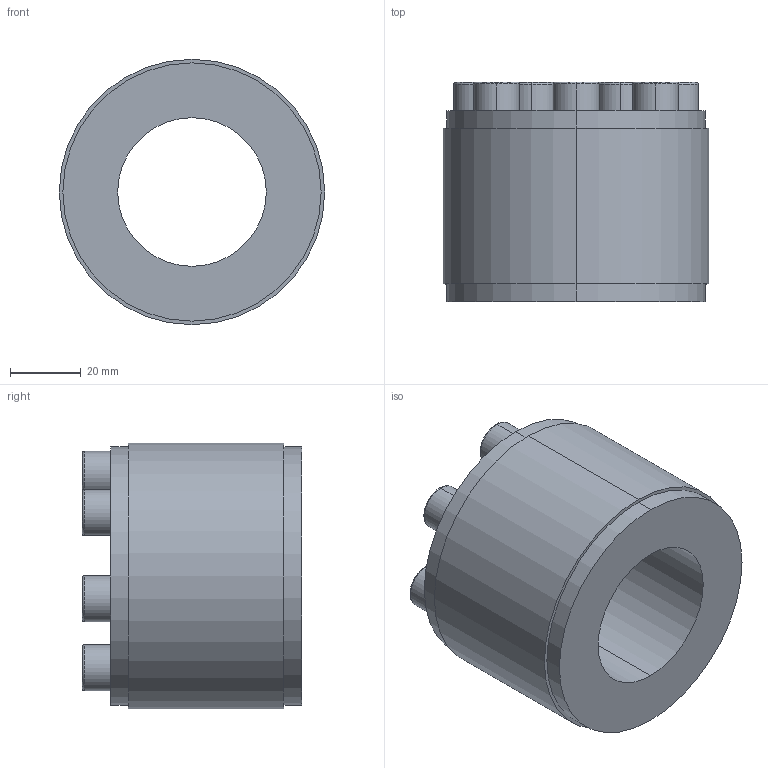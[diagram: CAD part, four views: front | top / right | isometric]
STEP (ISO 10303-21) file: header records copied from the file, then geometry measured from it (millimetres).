
FILE_DESCRIPTION (( 'STEP AP203' ), '1' );
FILE_NAME ('PL-D1 42-75.STEP', '2021-10-23T00:11:46', ( '' ), ( '' ), 'SwSTEP 2.0', 'SolidWorks 2018', '' );
FILE_SCHEMA (( 'CONFIG_CONTROL_DESIGN' ));
Length unit declared in the file: millimetre
Products named in the file (1): PL-D1 42-75
Bounding box: 75 x 62 x 75 mm (x, y, z)
Volume: 167971 mm3; surface area: 28657.5 mm2
Topology: 1 solids, 1 shells, 96 faces, 220 edges, 142 vertices
Faces by surface type: plane 60, cylinder 22, torus 14
Entity records: 2785 total; most frequent: DIRECTION 486, CARTESIAN_POINT 459, ORIENTED_EDGE 440, EDGE_CURVE 220, AXIS2_PLACEMENT_3D 169, VECTOR 148, LINE 148, VERTEX_POINT 142
